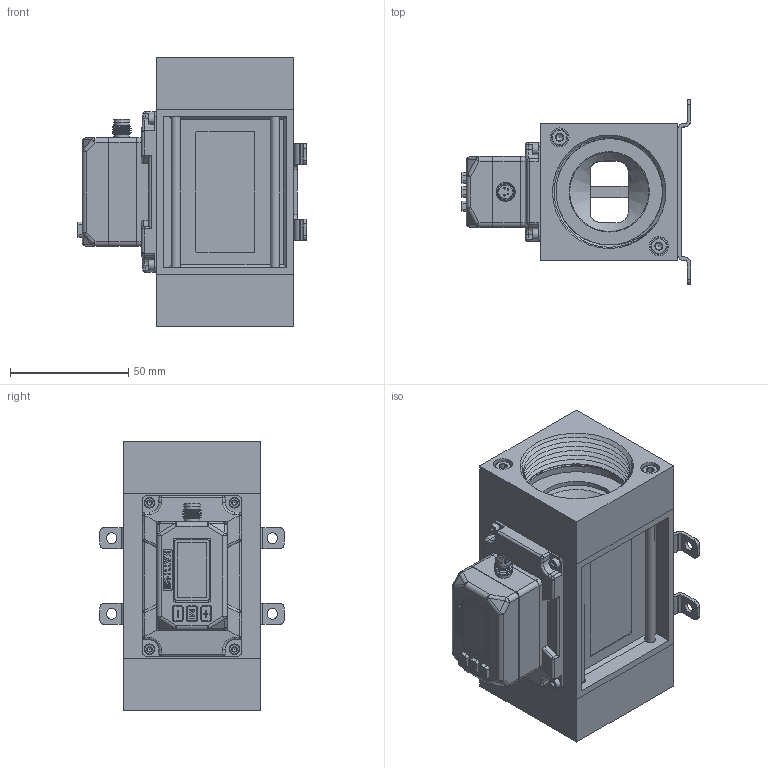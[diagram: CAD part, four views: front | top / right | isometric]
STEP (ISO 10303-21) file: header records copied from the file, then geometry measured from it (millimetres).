
FILE_DESCRIPTION( (''), '2;1');
FILE_NAME( 'QEKJ_200L_R1_2.step', '2026-09-29T16:21:36+08:00', (''), (''), '', '', '');
FILE_SCHEMA (('AUTOMOTIVE_DESIGN { 1 0 10303 214 3 1 1 1 }'));
Length unit declared in the file: millimetre
Products named in the file (1): QEKJ 200L_R1_2
Bounding box: 97.1 x 78 x 114 mm (x, y, z)
Volume: 210447.3 mm3; surface area: 118934.2 mm2
Topology: 19 solids, 20 shells, 1480 faces, 3604 edges, 2258 vertices
Faces by surface type: plane 804, cylinder 408, cone 129, torus 56, extrusion 33, sphere 28, bspline 22
Full cylindrical faces by diameter (mm): 0.6 x4, 1.6 x4, 2 x2, 2.05 x8, 2.38 x4, 2.8 x4, 3 x4, 3.3 x4, 3.838 x8, 4 x1, 4.5 x28, 5 x8, 5.8 x1, 6.5 x10, 7 x16, 8 x4, 34 x2, 40 x2, 48 x2
Entity records: 47974 total; most frequent: CARTESIAN_POINT 13472, DIRECTION 6870, ORIENTED_EDGE 6584, EDGE_CURVE 3292, AXIS2_PLACEMENT_3D 2430, VERTEX_POINT 2190, VECTOR 2010, LINE 1977
